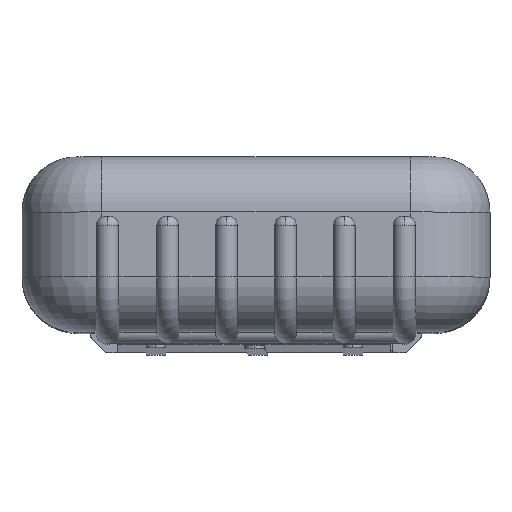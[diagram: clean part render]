
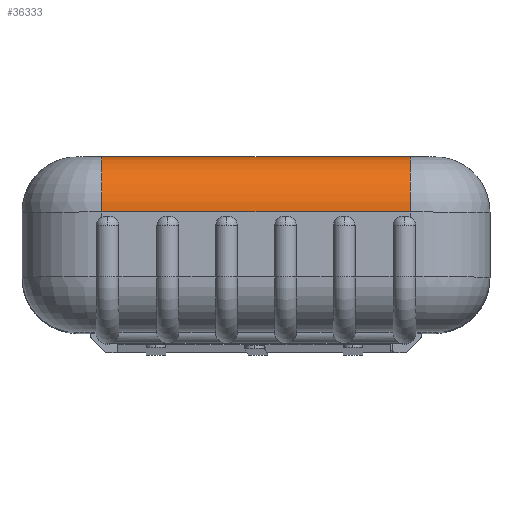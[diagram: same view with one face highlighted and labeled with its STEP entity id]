
A CAD part, top view. The second image highlights one B-rep face of the part: STEP entity #36333.
In plain terms, the highlighted cylindrical face has radius 9 mm (diameter 18 mm), a partial arc.
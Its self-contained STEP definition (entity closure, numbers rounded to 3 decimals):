
#44 = ORIENTED_EDGE ( 'NONE', *, *, #23666, .F. ) ;
#866 = DIRECTION ( 'NONE',  ( -1., 0., 0. ) ) ;
#1577 = EDGE_CURVE ( 'NONE', #23885, #7731, #31284, .T. ) ;
#1950 = DIRECTION ( 'NONE',  ( 0., 0., 1. ) ) ;
#5430 = EDGE_LOOP ( 'NONE', ( #33572, #6260, #35291, #44 ) ) ;
#5775 = CARTESIAN_POINT ( 'NONE',  ( -25.1, 19.575, -69.85 ) ) ;
#6260 = ORIENTED_EDGE ( 'NONE', *, *, #8462, .F. ) ;
#6598 = CARTESIAN_POINT ( 'NONE',  ( 0., 19.575, -60.85 ) ) ;
#6915 = EDGE_CURVE ( 'NONE', #35405, #23705, #10048, .T. ) ;
#7557 = FACE_OUTER_BOUND ( 'NONE', #5430, .T. ) ;
#7731 = VERTEX_POINT ( 'NONE', #9769 ) ;
#8462 = EDGE_CURVE ( 'NONE', #23705, #7731, #33656, .T. ) ;
#9769 = CARTESIAN_POINT ( 'NONE',  ( 25.1, 19.575, -69.85 ) ) ;
#10048 = CIRCLE ( 'NONE', #13906, 9. ) ;
#11109 = AXIS2_PLACEMENT_3D ( 'NONE', #6598, #866, #29242 ) ;
#13906 = AXIS2_PLACEMENT_3D ( 'NONE', #14806, #34599, #17657 ) ;
#14806 = CARTESIAN_POINT ( 'NONE',  ( -25.1, 19.575, -60.85 ) ) ;
#17657 = DIRECTION ( 'NONE',  ( 0., 0., 1. ) ) ;
#18838 = CARTESIAN_POINT ( 'NONE',  ( 38.1, 19.575, -69.85 ) ) ;
#18908 = DIRECTION ( 'NONE',  ( -1., 0., 0. ) ) ;
#23666 = EDGE_CURVE ( 'NONE', #23885, #35405, #27160, .T. ) ;
#23705 = VERTEX_POINT ( 'NONE', #5775 ) ;
#23885 = VERTEX_POINT ( 'NONE', #26197 ) ;
#24376 = CARTESIAN_POINT ( 'NONE',  ( -25.1, 28.575, -60.85 ) ) ;
#26145 = VECTOR ( 'NONE', #27418, 1000. ) ;
#26197 = CARTESIAN_POINT ( 'NONE',  ( 25.1, 28.575, -60.85 ) ) ;
#27041 = AXIS2_PLACEMENT_3D ( 'NONE', #35888, #18908, #1950 ) ;
#27160 = LINE ( 'NONE', #30774, #32906 ) ;
#27418 = DIRECTION ( 'NONE',  ( 1., 0., 0. ) ) ;
#29242 = DIRECTION ( 'NONE',  ( 0., 0., 1. ) ) ;
#30774 = CARTESIAN_POINT ( 'NONE',  ( 0., 28.575, -60.85 ) ) ;
#31284 = CIRCLE ( 'NONE', #27041, 9. ) ;
#32906 = VECTOR ( 'NONE', #33622, 1000. ) ;
#33572 = ORIENTED_EDGE ( 'NONE', *, *, #1577, .T. ) ;
#33622 = DIRECTION ( 'NONE',  ( -1., 0., 0. ) ) ;
#33656 = LINE ( 'NONE', #18838, #26145 ) ;
#34599 = DIRECTION ( 'NONE',  ( -1., 0., 0. ) ) ;
#35291 = ORIENTED_EDGE ( 'NONE', *, *, #6915, .F. ) ;
#35405 = VERTEX_POINT ( 'NONE', #24376 ) ;
#35888 = CARTESIAN_POINT ( 'NONE',  ( 25.1, 19.575, -60.85 ) ) ;
#36333 = ADVANCED_FACE ( 'NONE', ( #7557 ), #36744, .T. ) ;
#36744 = CYLINDRICAL_SURFACE ( 'NONE', #11109, 9. ) ;
